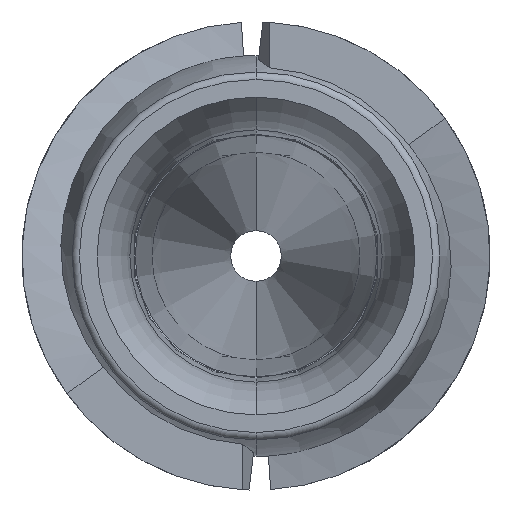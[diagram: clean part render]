
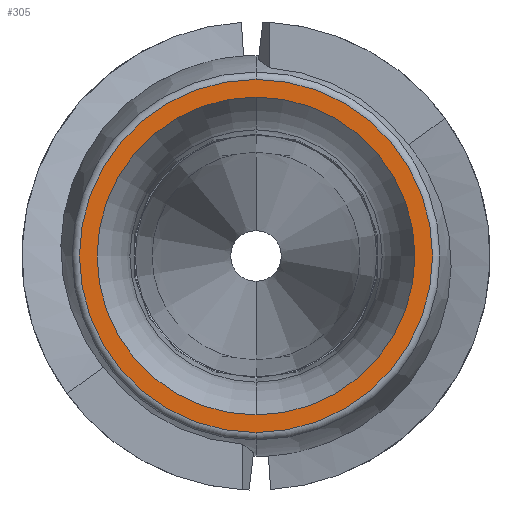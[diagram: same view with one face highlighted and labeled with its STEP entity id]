
A CAD part, front view. The second image highlights one B-rep face of the part: STEP entity #305.
In plain terms, the highlighted planar face has unit normal (0, -1, 0).
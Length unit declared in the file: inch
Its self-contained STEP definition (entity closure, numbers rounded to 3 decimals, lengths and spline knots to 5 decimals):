
#35 = ORIENTED_EDGE ( 'NONE', *, *, #1880, .T. ) ;
#113 = DIRECTION ( 'NONE',  ( 0., 0., 1. ) ) ;
#114 = FACE_BOUND ( 'NONE', #745, .T. ) ;
#133 = ORIENTED_EDGE ( 'NONE', *, *, #408, .F. ) ;
#229 = VERTEX_POINT ( 'NONE', #1518 ) ;
#295 = ORIENTED_EDGE ( 'NONE', *, *, #1528, .T. ) ;
#305 = ADVANCED_FACE ( 'NONE', ( #600, #114 ), #1600, .F. ) ;
#390 = EDGE_LOOP ( 'NONE', ( #35, #295 ) ) ;
#404 = CIRCLE ( 'NONE', #781, 0.11541 ) ;
#408 = EDGE_CURVE ( 'NONE', #229, #492, #784, .T. ) ;
#458 = CARTESIAN_POINT ( 'NONE',  ( 0., 0., 0. ) ) ;
#492 = VERTEX_POINT ( 'NONE', #1472 ) ;
#501 = ORIENTED_EDGE ( 'NONE', *, *, #1607, .F. ) ;
#505 = CARTESIAN_POINT ( 'NONE',  ( 0., 0., 0. ) ) ;
#600 = FACE_OUTER_BOUND ( 'NONE', #390, .T. ) ;
#601 = CARTESIAN_POINT ( 'NONE',  ( 0., 0., 0.11541 ) ) ;
#665 = DIRECTION ( 'NONE',  ( 0., -1., 0. ) ) ;
#745 = EDGE_LOOP ( 'NONE', ( #501, #133 ) ) ;
#761 = DIRECTION ( 'NONE',  ( 0., -1., 0. ) ) ;
#770 = CARTESIAN_POINT ( 'NONE',  ( 0.11912, 0., 0. ) ) ;
#781 = AXIS2_PLACEMENT_3D ( 'NONE', #947, #1798, #1284 ) ;
#782 = DIRECTION ( 'NONE',  ( 0., 1., 0. ) ) ;
#784 = CIRCLE ( 'NONE', #1129, 0.10388 ) ;
#839 = CARTESIAN_POINT ( 'NONE',  ( 0., 0., 0. ) ) ;
#850 = DIRECTION ( 'NONE',  ( 0., -1., 0. ) ) ;
#947 = CARTESIAN_POINT ( 'NONE',  ( 0., 0., 0. ) ) ;
#1122 = CARTESIAN_POINT ( 'NONE',  ( 0., 0., -0.11541 ) ) ;
#1129 = AXIS2_PLACEMENT_3D ( 'NONE', #505, #665, #1780 ) ;
#1177 = VERTEX_POINT ( 'NONE', #1122 ) ;
#1284 = DIRECTION ( 'NONE',  ( 0., 0., 1. ) ) ;
#1318 = DIRECTION ( 'NONE',  ( 0., 0., -1. ) ) ;
#1333 = CIRCLE ( 'NONE', #1650, 0.11541 ) ;
#1472 = CARTESIAN_POINT ( 'NONE',  ( 0., 0., -0.10388 ) ) ;
#1518 = CARTESIAN_POINT ( 'NONE',  ( 0., 0., 0.10388 ) ) ;
#1528 = EDGE_CURVE ( 'NONE', #1177, #1587, #404, .T. ) ;
#1587 = VERTEX_POINT ( 'NONE', #601 ) ;
#1600 = PLANE ( 'NONE',  #2075 ) ;
#1607 = EDGE_CURVE ( 'NONE', #492, #229, #1610, .T. ) ;
#1610 = CIRCLE ( 'NONE', #1825, 0.10388 ) ;
#1650 = AXIS2_PLACEMENT_3D ( 'NONE', #458, #761, #113 ) ;
#1780 = DIRECTION ( 'NONE',  ( 0., 0., -1. ) ) ;
#1798 = DIRECTION ( 'NONE',  ( 0., -1., 0. ) ) ;
#1825 = AXIS2_PLACEMENT_3D ( 'NONE', #839, #850, #1318 ) ;
#1880 = EDGE_CURVE ( 'NONE', #1587, #1177, #1333, .T. ) ;
#2075 = AXIS2_PLACEMENT_3D ( 'NONE', #770, #782, #2110 ) ;
#2110 = DIRECTION ( 'NONE',  ( 0., 0., 1. ) ) ;
